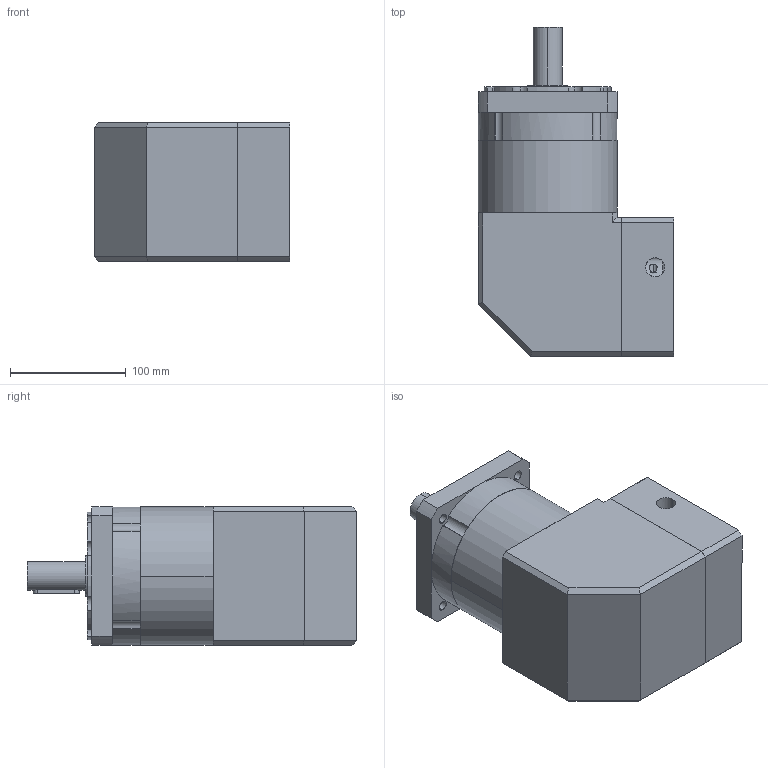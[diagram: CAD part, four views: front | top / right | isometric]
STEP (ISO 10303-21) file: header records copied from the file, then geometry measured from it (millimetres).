
FILE_DESCRIPTION (( 'STEP AP214' ), '1' );
FILE_NAME ('PFR-120-L2-S2-P2 22-110-145-M8.STEP', '2021-04-24T02:39:05', ( 'Microsoft' ), ( 'Microsoft China' ), 'SwSTEP 2.0', 'SolidWorks 2016', '' );
FILE_SCHEMA (( 'AUTOMOTIVE_DESIGN' ));
Length unit declared in the file: millimetre
Products named in the file (9): PFR120 內齿圈_二级内齿圈; PFR120-眊极; PFR-120-L2-S2-P2 22-110-145-M8; 粣創-3207A 35x72x27_2; 邧埴瑩 8x7x40; 螺釘範本 M8x20; PFR120-薊粣ん-梓袧; PFR120-蟀諉啣; PFR120 奻屳唳
Assembly tree (8 placements, depth 2):
  PFR-120-L2-S2-P2 22-110-145-M8
    PFR120-眊极
    PFR120 內齿圈_二级内齿圈
    PFR120 奻屳唳
    PFR120-蟀諉啣
    PFR120-薊粣ん-梓袧
    螺釘範本 M8x20
    邧埴瑩 8x7x40
    粣創-3207A 35x72x27_2
Bounding box: 169 x 284.5 x 120 mm (x, y, z)
Volume: 3405884.4 mm3; surface area: 330888 mm2
Topology: 8 solids, 16 shells, 594 faces, 1779 edges, 1156 vertices
Faces by surface type: cylinder 225, plane 207, torus 90, sphere 48, cone 24
Entity records: 29671 total; most frequent: CARTESIAN_POINT 7493, ORIENTED_EDGE 3282, DIRECTION 3189, EDGE_CURVE 1641, AXIS2_PLACEMENT_3D 1302, VERTEX_POINT 1084, CIRCLE 697, EDGE_LOOP 675
